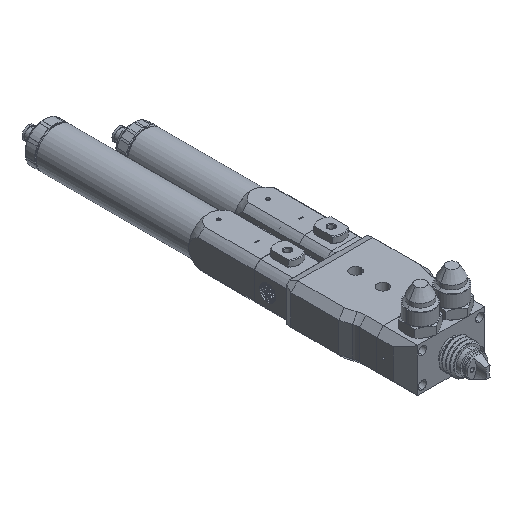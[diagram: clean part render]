
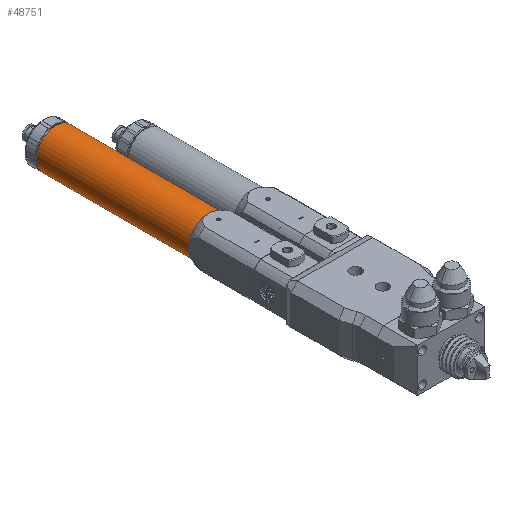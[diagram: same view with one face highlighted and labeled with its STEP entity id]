
A CAD part, isometric view. The second image highlights one B-rep face of the part: STEP entity #48751.
In plain terms, the highlighted cylindrical face has radius 14.5 mm (diameter 29 mm), a full revolution.
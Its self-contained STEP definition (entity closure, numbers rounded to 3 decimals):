
#758 = CARTESIAN_POINT ( 'NONE',  ( -47.65, 23.103, 996.931 ) ) ;
#1198 = DIRECTION ( 'NONE',  ( 0., 0., -1. ) ) ;
#1690 = CARTESIAN_POINT ( 'NONE',  ( -47.65, -88.697, 982.431 ) ) ;
#1808 = ORIENTED_EDGE ( 'NONE', *, *, #42348, .T. ) ;
#3242 = CIRCLE ( 'NONE', #18207, 14.5 ) ;
#4659 = DIRECTION ( 'NONE',  ( 0., -1., 0. ) ) ;
#5866 = VERTEX_POINT ( 'NONE', #758 ) ;
#7049 = VERTEX_POINT ( 'NONE', #36986 ) ;
#10768 = EDGE_CURVE ( 'NONE', #12723, #46099, #11202, .T. ) ;
#11202 = CIRCLE ( 'NONE', #16809, 14.5 ) ;
#12361 = AXIS2_PLACEMENT_3D ( 'NONE', #1690, #55367, #16065 ) ;
#12723 = VERTEX_POINT ( 'NONE', #13688 ) ;
#13581 = EDGE_LOOP ( 'NONE', ( #58087, #32288, #37562, #1808 ) ) ;
#13599 = CIRCLE ( 'NONE', #17379, 14.5 ) ;
#13688 = CARTESIAN_POINT ( 'NONE',  ( -62.15, -88.697, 982.431 ) ) ;
#16037 = EDGE_CURVE ( 'NONE', #36829, #12723, #13599, .T. ) ;
#16065 = DIRECTION ( 'NONE',  ( 0., 0., -1. ) ) ;
#16510 = CARTESIAN_POINT ( 'NONE',  ( -33.15, -88.697, 982.431 ) ) ;
#16809 = AXIS2_PLACEMENT_3D ( 'NONE', #24568, #33346, #23965 ) ;
#17379 = AXIS2_PLACEMENT_3D ( 'NONE', #47494, #28754, #25228 ) ;
#18207 = AXIS2_PLACEMENT_3D ( 'NONE', #51320, #51922, #42812 ) ;
#19378 = CARTESIAN_POINT ( 'NONE',  ( -47.65, 23.103, 982.431 ) ) ;
#22540 = DIRECTION ( 'NONE',  ( 0., 0., -1. ) ) ;
#23965 = DIRECTION ( 'NONE',  ( 0., 0., -1. ) ) ;
#24568 = CARTESIAN_POINT ( 'NONE',  ( -47.65, -88.697, 982.431 ) ) ;
#24586 = CIRCLE ( 'NONE', #44224, 14.5 ) ;
#24628 = VERTEX_POINT ( 'NONE', #16510 ) ;
#25228 = DIRECTION ( 'NONE',  ( 0., 0., -1. ) ) ;
#26410 = CIRCLE ( 'NONE', #44180, 14.5 ) ;
#28754 = DIRECTION ( 'NONE',  ( 0., 1., 0. ) ) ;
#30767 = CARTESIAN_POINT ( 'NONE',  ( -47.65, -88.697, 967.931 ) ) ;
#32288 = ORIENTED_EDGE ( 'NONE', *, *, #16037, .T. ) ;
#33346 = DIRECTION ( 'NONE',  ( 0., 1., 0. ) ) ;
#36829 = VERTEX_POINT ( 'NONE', #30767 ) ;
#36986 = CARTESIAN_POINT ( 'NONE',  ( -47.65, 23.103, 967.931 ) ) ;
#37065 = EDGE_CURVE ( 'NONE', #7049, #5866, #24586, .T. ) ;
#37562 = ORIENTED_EDGE ( 'NONE', *, *, #10768, .T. ) ;
#38626 = DIRECTION ( 'NONE',  ( 0., -1., 0. ) ) ;
#38903 = FACE_OUTER_BOUND ( 'NONE', #46714, .T. ) ;
#40254 = ORIENTED_EDGE ( 'NONE', *, *, #51177, .T. ) ;
#42348 = EDGE_CURVE ( 'NONE', #46099, #24628, #3242, .T. ) ;
#42717 = CARTESIAN_POINT ( 'NONE',  ( -47.65, -92.634, 982.431 ) ) ;
#42812 = DIRECTION ( 'NONE',  ( 0., 0., -1. ) ) ;
#44180 = AXIS2_PLACEMENT_3D ( 'NONE', #19378, #45746, #1198 ) ;
#44224 = AXIS2_PLACEMENT_3D ( 'NONE', #53912, #4659, #22540 ) ;
#45732 = CARTESIAN_POINT ( 'NONE',  ( -47.65, -88.697, 996.931 ) ) ;
#45746 = DIRECTION ( 'NONE',  ( 0., -1., 0. ) ) ;
#46099 = VERTEX_POINT ( 'NONE', #45732 ) ;
#46714 = EDGE_LOOP ( 'NONE', ( #40254, #48606 ) ) ;
#47494 = CARTESIAN_POINT ( 'NONE',  ( -47.65, -88.697, 982.431 ) ) ;
#48606 = ORIENTED_EDGE ( 'NONE', *, *, #37065, .T. ) ;
#48751 = ADVANCED_FACE ( 'NONE', ( #49855, #38903 ), #56813, .T. ) ;
#49640 = AXIS2_PLACEMENT_3D ( 'NONE', #42717, #38626, #56233 ) ;
#49855 = FACE_OUTER_BOUND ( 'NONE', #13581, .T. ) ;
#50546 = EDGE_CURVE ( 'NONE', #24628, #36829, #52606, .T. ) ;
#51177 = EDGE_CURVE ( 'NONE', #5866, #7049, #26410, .T. ) ;
#51320 = CARTESIAN_POINT ( 'NONE',  ( -47.65, -88.697, 982.431 ) ) ;
#51922 = DIRECTION ( 'NONE',  ( 0., 1., 0. ) ) ;
#52606 = CIRCLE ( 'NONE', #12361, 14.5 ) ;
#53912 = CARTESIAN_POINT ( 'NONE',  ( -47.65, 23.103, 982.431 ) ) ;
#55367 = DIRECTION ( 'NONE',  ( 0., 1., 0. ) ) ;
#56233 = DIRECTION ( 'NONE',  ( 0., 0., -1. ) ) ;
#56813 = CYLINDRICAL_SURFACE ( 'NONE', #49640, 14.5 ) ;
#58087 = ORIENTED_EDGE ( 'NONE', *, *, #50546, .T. ) ;
